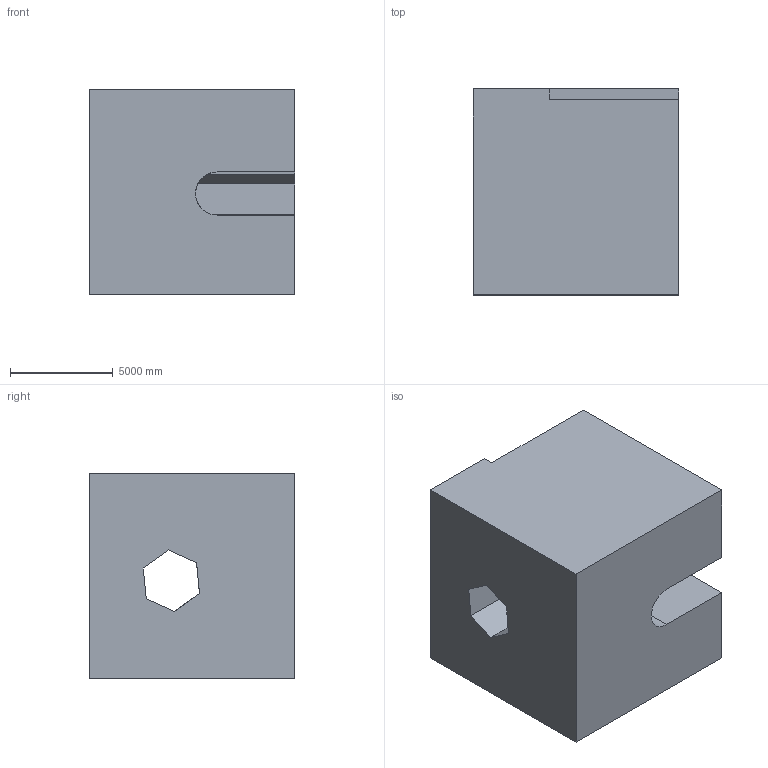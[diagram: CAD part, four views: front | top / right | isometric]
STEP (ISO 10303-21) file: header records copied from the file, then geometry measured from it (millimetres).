
FILE_DESCRIPTION (( 'STEP AP203' ), '1' );
FILE_NAME ('22.STEP', '2022-09-01T11:38:16', ( 'user' ), ( '' ), 'SwSTEP 2.0', 'SolidWorks 2021', '' );
FILE_SCHEMA (( 'CONFIG_CONTROL_DESIGN' ));
Length unit declared in the file: centimetre
Products named in the file (1): 22
Bounding box: 10000 x 10000 x 10000 mm (x, y, z)
Volume: 891940751895.4 mm3; surface area: 702660251.5 mm2
Topology: 1 solids, 1 shells, 19 faces, 54 edges, 36 vertices
Faces by surface type: plane 18, cylinder 1
Entity records: 691 total; most frequent: CARTESIAN_POINT 119, ORIENTED_EDGE 108, DIRECTION 93, EDGE_CURVE 54, VECTOR 49, LINE 49, VERTEX_POINT 36, AXIS2_PLACEMENT_3D 22
